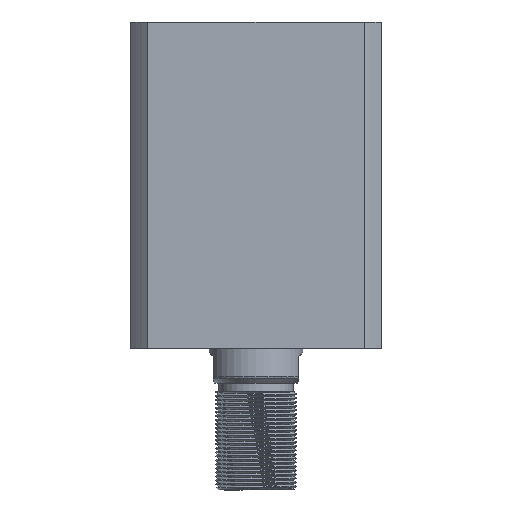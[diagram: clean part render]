
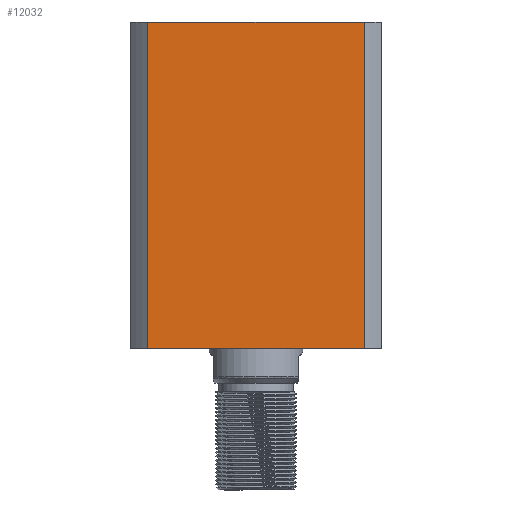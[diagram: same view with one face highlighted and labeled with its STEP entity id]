
A CAD part, front view. The second image highlights one B-rep face of the part: STEP entity #12032.
In plain terms, the highlighted planar face has unit normal (0, -1, 0) as drawn and (0, 1, 0) by its records, which use the part's own axes.
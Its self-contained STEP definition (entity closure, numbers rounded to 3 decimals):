
#396 = CARTESIAN_POINT ( 'NONE',  ( 40.435, 47., 122. ) ) ;
#1419 = ORIENTED_EDGE ( 'NONE', *, *, #18235, .F. ) ;
#1761 = LINE ( 'NONE', #17543, #16743 ) ;
#2361 = CARTESIAN_POINT ( 'NONE',  ( -47., 47., 122. ) ) ;
#2794 = ORIENTED_EDGE ( 'NONE', *, *, #7408, .F. ) ;
#3162 = DIRECTION ( 'NONE',  ( -1., 0., 0. ) ) ;
#3555 = ORIENTED_EDGE ( 'NONE', *, *, #19588, .F. ) ;
#4093 = DIRECTION ( 'NONE',  ( 0., 0., -1. ) ) ;
#4650 = VERTEX_POINT ( 'NONE', #14723 ) ;
#4657 = CARTESIAN_POINT ( 'NONE',  ( -40.435, 47., 122. ) ) ;
#5403 = DIRECTION ( 'NONE',  ( 0., 0., -1. ) ) ;
#5782 = PLANE ( 'NONE',  #15351 ) ;
#6242 = VECTOR ( 'NONE', #3162, 1000. ) ;
#6995 = VECTOR ( 'NONE', #14679, 1000. ) ;
#7255 = FACE_OUTER_BOUND ( 'NONE', #9802, .T. ) ;
#7408 = EDGE_CURVE ( 'NONE', #18949, #9474, #1761, .T. ) ;
#7415 = CARTESIAN_POINT ( 'NONE',  ( -40.435, 47., 0. ) ) ;
#9474 = VERTEX_POINT ( 'NONE', #7415 ) ;
#9802 = EDGE_LOOP ( 'NONE', ( #3555, #17171, #2794, #1419 ) ) ;
#10199 = VERTEX_POINT ( 'NONE', #396 ) ;
#10825 = LINE ( 'NONE', #13591, #6242 ) ;
#11202 = CARTESIAN_POINT ( 'NONE',  ( 40.435, 47., -2878. ) ) ;
#11634 = LINE ( 'NONE', #11202, #6995 ) ;
#12032 = ADVANCED_FACE ( 'NONE', ( #7255 ), #5782, .F. ) ;
#12747 = LINE ( 'NONE', #15101, #21382 ) ;
#13591 = CARTESIAN_POINT ( 'NONE',  ( -47., 47., 0. ) ) ;
#14511 = DIRECTION ( 'NONE',  ( 0., -1., 0. ) ) ;
#14679 = DIRECTION ( 'NONE',  ( 0., 0., 1. ) ) ;
#14723 = CARTESIAN_POINT ( 'NONE',  ( 40.435, 47., 0. ) ) ;
#15101 = CARTESIAN_POINT ( 'NONE',  ( -47., 47., 122. ) ) ;
#15351 = AXIS2_PLACEMENT_3D ( 'NONE', #2361, #14511, #4093 ) ;
#16743 = VECTOR ( 'NONE', #5403, 1000. ) ;
#17171 = ORIENTED_EDGE ( 'NONE', *, *, #17565, .T. ) ;
#17543 = CARTESIAN_POINT ( 'NONE',  ( -40.435, 47., -2878. ) ) ;
#17565 = EDGE_CURVE ( 'NONE', #4650, #9474, #10825, .T. ) ;
#18235 = EDGE_CURVE ( 'NONE', #10199, #18949, #12747, .T. ) ;
#18661 = DIRECTION ( 'NONE',  ( -1., 0., 0. ) ) ;
#18949 = VERTEX_POINT ( 'NONE', #4657 ) ;
#19588 = EDGE_CURVE ( 'NONE', #4650, #10199, #11634, .T. ) ;
#21382 = VECTOR ( 'NONE', #18661, 1000. ) ;
